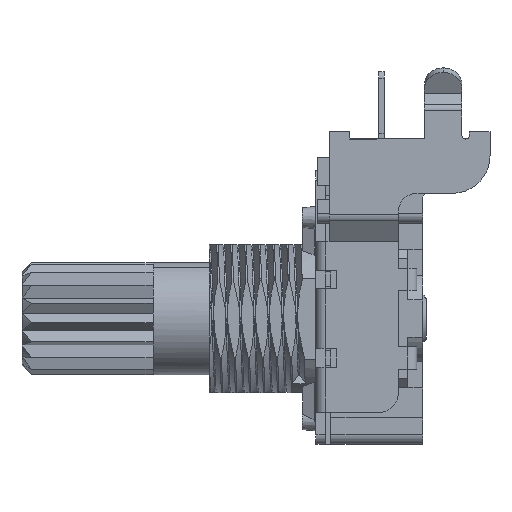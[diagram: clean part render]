
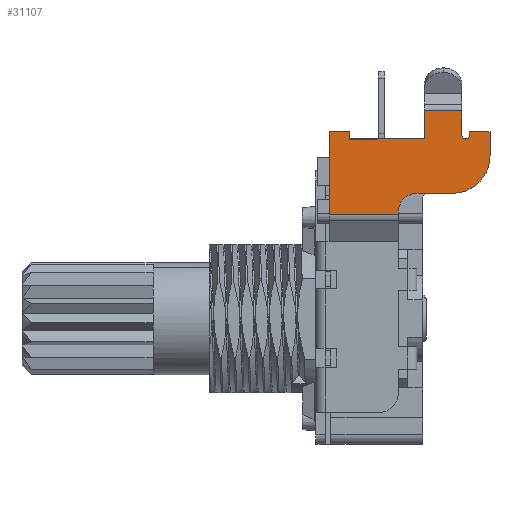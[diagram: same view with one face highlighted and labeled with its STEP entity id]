
A CAD part, left-side view. The second image highlights one B-rep face of the part: STEP entity #31107.
In plain terms, the highlighted planar face has unit normal (-1, 0, 0).
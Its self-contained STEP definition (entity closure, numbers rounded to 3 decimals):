
#132 = VERTEX_POINT ( 'NONE', #14341 ) ;
#341 = ORIENTED_EDGE ( 'NONE', *, *, #35654, .T. ) ;
#597 = AXIS2_PLACEMENT_3D ( 'NONE', #31802, #19730, #2838 ) ;
#772 = CARTESIAN_POINT ( 'NONE',  ( -8.15, -1.3, 1.7 ) ) ;
#957 = AXIS2_PLACEMENT_3D ( 'NONE', #3429, #6604, #26443 ) ;
#1335 = CARTESIAN_POINT ( 'NONE',  ( -8.15, -7.5, 1.7 ) ) ;
#1708 = DIRECTION ( 'NONE',  ( 0., 0., -1. ) ) ;
#1914 = AXIS2_PLACEMENT_3D ( 'NONE', #6616, #29251, #26457 ) ;
#2141 = DIRECTION ( 'NONE',  ( 0., -1., 0. ) ) ;
#2449 = ORIENTED_EDGE ( 'NONE', *, *, #3647, .F. ) ;
#2498 = DIRECTION ( 'NONE',  ( -1., 0., 0. ) ) ;
#2541 = VERTEX_POINT ( 'NONE', #32973 ) ;
#2838 = DIRECTION ( 'NONE',  ( 0., 0., -1. ) ) ;
#2873 = LINE ( 'NONE', #31654, #29167 ) ;
#3048 = CARTESIAN_POINT ( 'NONE',  ( -8.15, -6.8, 0.8 ) ) ;
#3170 = CARTESIAN_POINT ( 'NONE',  ( -8.15, -7.7, 2.1 ) ) ;
#3324 = CIRCLE ( 'NONE', #957, 0.2 ) ;
#3429 = CARTESIAN_POINT ( 'NONE',  ( -8.15, -7.5, 1.9 ) ) ;
#3431 = ORIENTED_EDGE ( 'NONE', *, *, #9830, .T. ) ;
#3647 = EDGE_CURVE ( 'NONE', #132, #21821, #29813, .T. ) ;
#4639 = VERTEX_POINT ( 'NONE', #27983 ) ;
#4785 = EDGE_CURVE ( 'NONE', #26415, #21821, #17842, .T. ) ;
#5108 = VECTOR ( 'NONE', #27729, 1000. ) ;
#5684 = VECTOR ( 'NONE', #36454, 1000. ) ;
#5931 = ORIENTED_EDGE ( 'NONE', *, *, #14986, .T. ) ;
#6299 = VERTEX_POINT ( 'NONE', #32904 ) ;
#6332 = EDGE_CURVE ( 'NONE', #11514, #16783, #13227, .T. ) ;
#6604 = DIRECTION ( 'NONE',  ( 1., 0., 0. ) ) ;
#6616 = CARTESIAN_POINT ( 'NONE',  ( -8.15, -7.5, 1.9 ) ) ;
#6753 = CIRCLE ( 'NONE', #35214, 2. ) ;
#6891 = EDGE_CURVE ( 'NONE', #27380, #22752, #7925, .T. ) ;
#6925 = DIRECTION ( 'NONE',  ( 1., 0., 0. ) ) ;
#7411 = CARTESIAN_POINT ( 'NONE',  ( -8.15, -4.9, -1.2 ) ) ;
#7567 = CARTESIAN_POINT ( 'NONE',  ( -8.15, -1.3, 2.1 ) ) ;
#7925 = LINE ( 'NONE', #25516, #15302 ) ;
#8848 = CARTESIAN_POINT ( 'NONE',  ( -8.15, -8.8, 0.8 ) ) ;
#8984 = ORIENTED_EDGE ( 'NONE', *, *, #11191, .T. ) ;
#9778 = ORIENTED_EDGE ( 'NONE', *, *, #34217, .T. ) ;
#9830 = EDGE_CURVE ( 'NONE', #16286, #11514, #27705, .T. ) ;
#10803 = DIRECTION ( 'NONE',  ( 0., 1., 0. ) ) ;
#11191 = EDGE_CURVE ( 'NONE', #12502, #15500, #23010, .T. ) ;
#11244 = DIRECTION ( 'NONE',  ( 0., 0., -1. ) ) ;
#11514 = VERTEX_POINT ( 'NONE', #11696 ) ;
#11571 = CARTESIAN_POINT ( 'NONE',  ( -8.15, -0.2, 2.1 ) ) ;
#11696 = CARTESIAN_POINT ( 'NONE',  ( -8.15, -8.8, 2.1 ) ) ;
#12028 = VECTOR ( 'NONE', #14708, 1000. ) ;
#12502 = VERTEX_POINT ( 'NONE', #36655 ) ;
#12987 = CARTESIAN_POINT ( 'NONE',  ( -8.15, -7.7, 2.1 ) ) ;
#13102 = LINE ( 'NONE', #19190, #5108 ) ;
#13166 = CARTESIAN_POINT ( 'NONE',  ( -8.15, -3.9, -2.2 ) ) ;
#13197 = CIRCLE ( 'NONE', #1914, 0.2 ) ;
#13227 = LINE ( 'NONE', #24533, #23770 ) ;
#13495 = LINE ( 'NONE', #27412, #21237 ) ;
#14314 = CARTESIAN_POINT ( 'NONE',  ( -8.15, -3.9, -2.515 ) ) ;
#14341 = CARTESIAN_POINT ( 'NONE',  ( -8.15, -0.2, -2.357 ) ) ;
#14509 = EDGE_CURVE ( 'NONE', #15500, #32602, #22430, .T. ) ;
#14708 = DIRECTION ( 'NONE',  ( 0., 1., 0. ) ) ;
#14723 = FACE_OUTER_BOUND ( 'NONE', #23416, .T. ) ;
#14986 = EDGE_CURVE ( 'NONE', #2541, #4639, #29392, .T. ) ;
#15302 = VECTOR ( 'NONE', #2141, 1000. ) ;
#15500 = VERTEX_POINT ( 'NONE', #13166 ) ;
#15703 = CARTESIAN_POINT ( 'NONE',  ( -8.15, -0.2, -2.515 ) ) ;
#16286 = VERTEX_POINT ( 'NONE', #8848 ) ;
#16783 = VERTEX_POINT ( 'NONE', #3170 ) ;
#17197 = CARTESIAN_POINT ( 'NONE',  ( -8.15, -5.3, 3.2 ) ) ;
#17276 = ORIENTED_EDGE ( 'NONE', *, *, #6891, .F. ) ;
#17348 = DIRECTION ( 'NONE',  ( 0., 1., 0. ) ) ;
#17672 = DIRECTION ( 'NONE',  ( 0., 0., -1. ) ) ;
#17842 = LINE ( 'NONE', #11571, #12028 ) ;
#18385 = EDGE_CURVE ( 'NONE', #6299, #16286, #6753, .T. ) ;
#18703 = EDGE_CURVE ( 'NONE', #16783, #34372, #27079, .T. ) ;
#18738 = VECTOR ( 'NONE', #33651, 1000. ) ;
#18939 = ORIENTED_EDGE ( 'NONE', *, *, #21658, .T. ) ;
#19081 = DIRECTION ( 'NONE',  ( 0., 0., -1. ) ) ;
#19190 = CARTESIAN_POINT ( 'NONE',  ( -8.15, -0.2, -2.357 ) ) ;
#19730 = DIRECTION ( 'NONE',  ( 1., 0., 0. ) ) ;
#20122 = VECTOR ( 'NONE', #1708, 1000. ) ;
#20457 = PLANE ( 'NONE',  #597 ) ;
#20737 = EDGE_CURVE ( 'NONE', #22752, #34976, #30881, .T. ) ;
#20839 = CARTESIAN_POINT ( 'NONE',  ( -8.15, -7.3, 1.7 ) ) ;
#21061 = VECTOR ( 'NONE', #32793, 1000. ) ;
#21237 = VECTOR ( 'NONE', #35777, 1000. ) ;
#21392 = LINE ( 'NONE', #30125, #20122 ) ;
#21427 = EDGE_CURVE ( 'NONE', #34451, #2541, #3324, .T. ) ;
#21592 = VECTOR ( 'NONE', #19081, 1000. ) ;
#21658 = EDGE_CURVE ( 'NONE', #132, #12502, #13102, .T. ) ;
#21821 = VERTEX_POINT ( 'NONE', #36458 ) ;
#22307 = CARTESIAN_POINT ( 'NONE',  ( -8.15, -8.8, 1.7 ) ) ;
#22430 = CIRCLE ( 'NONE', #27195, 1. ) ;
#22526 = ORIENTED_EDGE ( 'NONE', *, *, #21427, .T. ) ;
#22752 = VERTEX_POINT ( 'NONE', #32592 ) ;
#22797 = ORIENTED_EDGE ( 'NONE', *, *, #30448, .F. ) ;
#23010 = LINE ( 'NONE', #14314, #28620 ) ;
#23357 = ORIENTED_EDGE ( 'NONE', *, *, #14509, .T. ) ;
#23416 = EDGE_LOOP ( 'NONE', ( #9778, #22526, #5931, #341, #30701, #17276, #22797, #24525, #2449, #18939, #8984, #23357, #25239, #27398, #3431, #33426, #29611 ) ) ;
#23608 = CARTESIAN_POINT ( 'NONE',  ( -8.15, -4.9, -2.2 ) ) ;
#23770 = VECTOR ( 'NONE', #10803, 1000. ) ;
#24525 = ORIENTED_EDGE ( 'NONE', *, *, #4785, .T. ) ;
#24533 = CARTESIAN_POINT ( 'NONE',  ( -8.15, -8.8, 2.1 ) ) ;
#25099 = CARTESIAN_POINT ( 'NONE',  ( -8.15, -7.7, 1.9 ) ) ;
#25125 = CARTESIAN_POINT ( 'NONE',  ( -8.15, -5.3, 2.2 ) ) ;
#25239 = ORIENTED_EDGE ( 'NONE', *, *, #28243, .F. ) ;
#25516 = CARTESIAN_POINT ( 'NONE',  ( -8.15, -0.2, 1.7 ) ) ;
#26415 = VERTEX_POINT ( 'NONE', #7567 ) ;
#26443 = DIRECTION ( 'NONE',  ( 0., 0., -1. ) ) ;
#26457 = DIRECTION ( 'NONE',  ( 0., 0., -1. ) ) ;
#27079 = LINE ( 'NONE', #12987, #21592 ) ;
#27195 = AXIS2_PLACEMENT_3D ( 'NONE', #23608, #6925, #17672 ) ;
#27380 = VERTEX_POINT ( 'NONE', #772 ) ;
#27398 = ORIENTED_EDGE ( 'NONE', *, *, #18385, .T. ) ;
#27412 = CARTESIAN_POINT ( 'NONE',  ( -8.15, -5.3, 3.2 ) ) ;
#27705 = LINE ( 'NONE', #22307, #18738 ) ;
#27729 = DIRECTION ( 'NONE',  ( 0., -1., 0. ) ) ;
#27983 = CARTESIAN_POINT ( 'NONE',  ( -8.15, -7.3, 3.2 ) ) ;
#28243 = EDGE_CURVE ( 'NONE', #6299, #32602, #2873, .T. ) ;
#28620 = VECTOR ( 'NONE', #31377, 1000. ) ;
#29167 = VECTOR ( 'NONE', #17348, 1000. ) ;
#29251 = DIRECTION ( 'NONE',  ( 1., 0., 0. ) ) ;
#29392 = LINE ( 'NONE', #20839, #29606 ) ;
#29606 = VECTOR ( 'NONE', #32184, 1000. ) ;
#29611 = ORIENTED_EDGE ( 'NONE', *, *, #18703, .T. ) ;
#29813 = LINE ( 'NONE', #15703, #21061 ) ;
#30125 = CARTESIAN_POINT ( 'NONE',  ( -8.15, -1.3, 2.1 ) ) ;
#30448 = EDGE_CURVE ( 'NONE', #26415, #27380, #21392, .T. ) ;
#30701 = ORIENTED_EDGE ( 'NONE', *, *, #20737, .F. ) ;
#30881 = LINE ( 'NONE', #25125, #5684 ) ;
#31107 = ADVANCED_FACE ( 'NONE', ( #14723 ), #20457, .F. ) ;
#31377 = DIRECTION ( 'NONE',  ( 0., 0., 1. ) ) ;
#31654 = CARTESIAN_POINT ( 'NONE',  ( -8.15, -8.8, -1.2 ) ) ;
#31802 = CARTESIAN_POINT ( 'NONE',  ( -8.15, -0.2, -2.515 ) ) ;
#32184 = DIRECTION ( 'NONE',  ( 0., 0., 1. ) ) ;
#32592 = CARTESIAN_POINT ( 'NONE',  ( -8.15, -5.3, 1.7 ) ) ;
#32602 = VERTEX_POINT ( 'NONE', #7411 ) ;
#32793 = DIRECTION ( 'NONE',  ( 0., 0., 1. ) ) ;
#32904 = CARTESIAN_POINT ( 'NONE',  ( -8.15, -6.8, -1.2 ) ) ;
#32973 = CARTESIAN_POINT ( 'NONE',  ( -8.15, -7.3, 1.9 ) ) ;
#33426 = ORIENTED_EDGE ( 'NONE', *, *, #6332, .T. ) ;
#33651 = DIRECTION ( 'NONE',  ( 0., 0., 1. ) ) ;
#34217 = EDGE_CURVE ( 'NONE', #34372, #34451, #13197, .T. ) ;
#34372 = VERTEX_POINT ( 'NONE', #25099 ) ;
#34451 = VERTEX_POINT ( 'NONE', #1335 ) ;
#34976 = VERTEX_POINT ( 'NONE', #17197 ) ;
#35214 = AXIS2_PLACEMENT_3D ( 'NONE', #3048, #2498, #11244 ) ;
#35654 = EDGE_CURVE ( 'NONE', #4639, #34976, #13495, .T. ) ;
#35777 = DIRECTION ( 'NONE',  ( 0., 1., 0. ) ) ;
#36454 = DIRECTION ( 'NONE',  ( 0., 0., 1. ) ) ;
#36458 = CARTESIAN_POINT ( 'NONE',  ( -8.15, -0.2, 2.1 ) ) ;
#36655 = CARTESIAN_POINT ( 'NONE',  ( -8.15, -3.9, -2.357 ) ) ;
